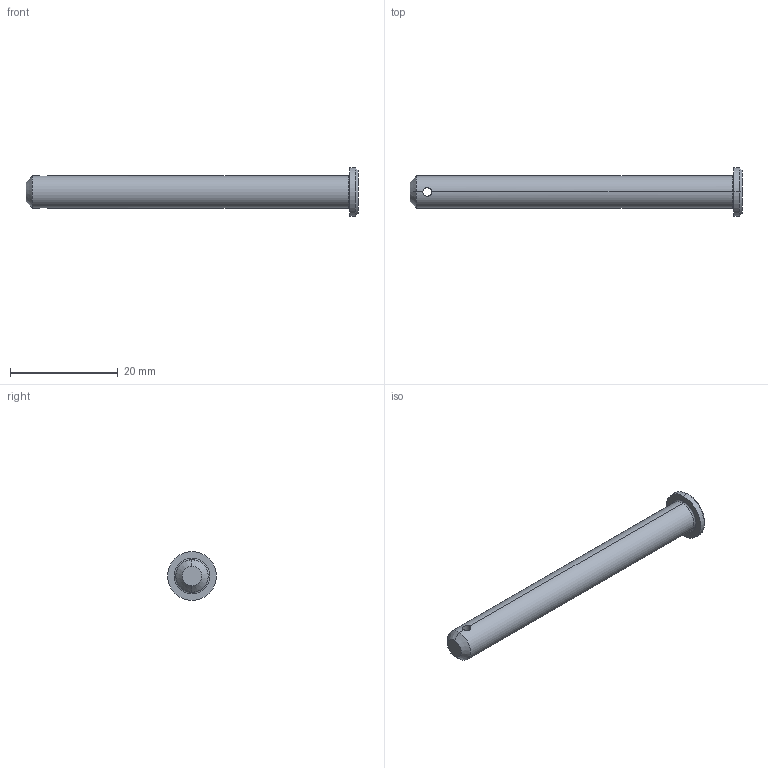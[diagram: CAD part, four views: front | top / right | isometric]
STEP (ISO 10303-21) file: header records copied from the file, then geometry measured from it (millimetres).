
FILE_DESCRIPTION (( 'STEP AP203' ), '1' );
FILE_NAME ('Wiberger-sms2360_6x60.step', '2012-10-09T08:58:40', ( 'Magnus' ), ( 'Wiberger' ), 'SwSTEP 2.0', 'SolidWorks 2011', '' );
FILE_SCHEMA (( 'CONFIG_CONTROL_DESIGN' ));
Length unit declared in the file: millimetre
Products named in the file (1): Wiberger-sms2360_6x60
Bounding box: 61.5 x 9 x 9 mm (x, y, z)
Volume: 1765.1 mm3; surface area: 1300.1 mm2
Topology: 1 solids, 1 shells, 15 faces, 32 edges, 18 vertices
Faces by surface type: cylinder 6, cone 4, plane 3, torus 2
Entity records: 539 total; most frequent: CARTESIAN_POINT 130, DIRECTION 76, ORIENTED_EDGE 64, EDGE_CURVE 32, AXIS2_PLACEMENT_3D 32, VERTEX_POINT 18, EDGE_LOOP 16, CIRCLE 16
